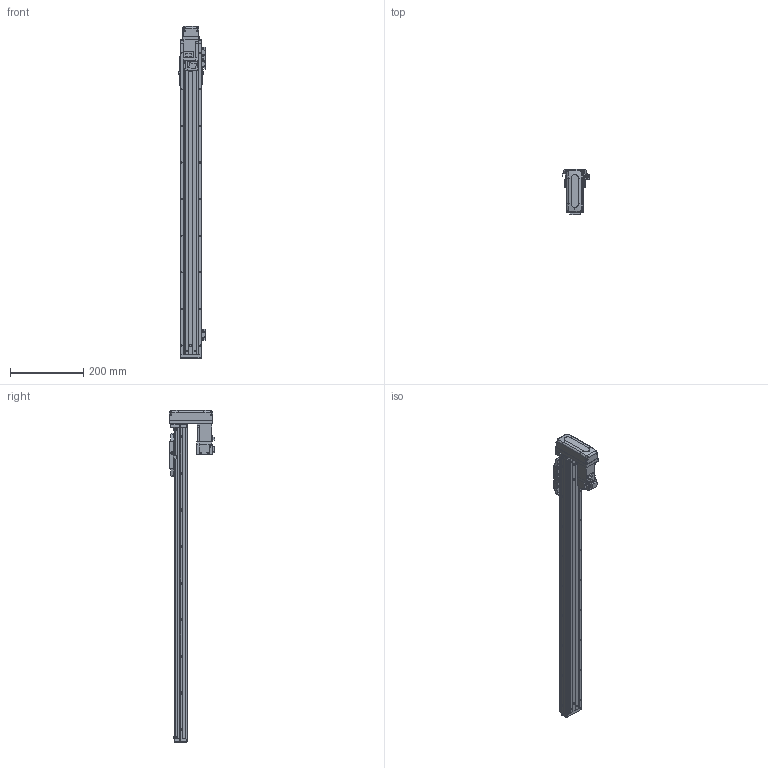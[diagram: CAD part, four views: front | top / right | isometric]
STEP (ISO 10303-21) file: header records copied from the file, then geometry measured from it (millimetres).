
FILE_DESCRIPTION (( 'STEP AP203' ), '1' );
FILE_NAME ('CTHA50-700-BM-M10-C4L.step', '2022-03-19T06:04:37', ( '微软用户' ), ( '微软中国' ), 'SwSTEP 2.0', 'SolidWorks 2020', '' );
FILE_SCHEMA (( 'CONFIG_CONTROL_DESIGN' ));
Length unit declared in the file: millimetre
Products named in the file (20): EE_SX911P_R; HG-KR13（三菱）; GBT 70.1-M3×15; GBT77-2000 M3×3; CTHA50-002; CTHA50-700-BM-M10-C4L; GBT 70.1-M3℅6; CTHA50-030; KTHA50-001_850; CTHA60-017; CTHA50-031; KTHA50-004; GBT 70.1-M4×12; GBT 70.3-M3℅6; KTHA50-005; CTHA60-016; CTHA50-015-2_CTHA60-015-2; GB¨uT 70.2-M3¡Á6_M3¡Á6; CTHA60-021; CTHA60-033
Assembly tree (60 placements, depth 2):
  CTHA50-700-BM-M10-C4L
    KTHA50-001_850
    KTHA50-004
    KTHA50-005
    GB¨uT 70.2-M3¡Á6_M3¡Á6  x10
    EE_SX911P_R  x3
    GBT77-2000 M3×3  x6
    GBT 70.1-M3℅6  x6
    CTHA60-017  x3
    GBT 70.1-M4×12  x10
    CTHA60-016  x2
    CTHA60-021  x2
    HG-KR13（三菱）
    CTHA50-002
    CTHA50-030  x2
    CTHA50-031
    GBT 70.3-M3℅6  x4
    CTHA50-015-2_CTHA60-015-2
    CTHA60-033
    GBT 70.1-M3×15  x4
Bounding box: 74.12 x 125.3 x 907 mm (x, y, z)
Volume: 1674311.2 mm3; surface area: 425405.9 mm2
Topology: 62 solids, 62 shells, 2573 faces, 6135 edges, 3762 vertices
Faces by surface type: plane 1458, cylinder 600, cone 357, torus 108, bspline 26, sphere 24
Entity records: 44623 total; most frequent: CARTESIAN_POINT 8219, DIRECTION 6975, ORIENTED_EDGE 6778, EDGE_CURVE 3389, LINE 2379, VECTOR 2379, AXIS2_PLACEMENT_3D 2298, VERTEX_POINT 2136
